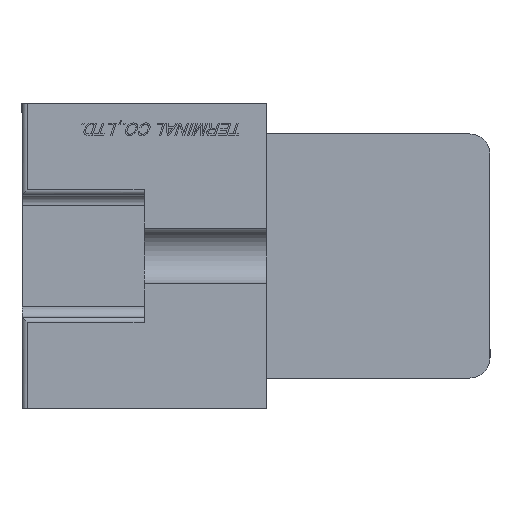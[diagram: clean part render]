
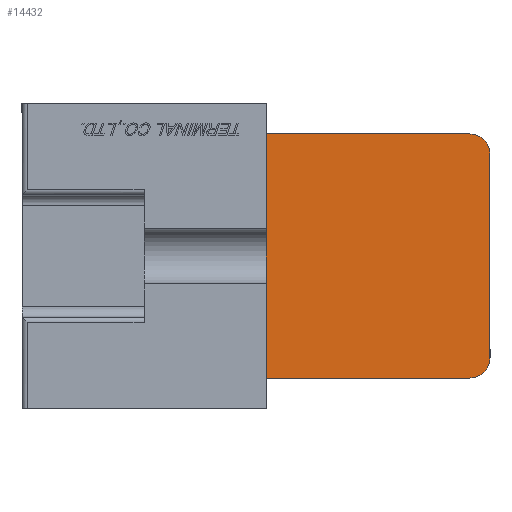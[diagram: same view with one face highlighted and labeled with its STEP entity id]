
A CAD part, left-side view. The second image highlights one B-rep face of the part: STEP entity #14432.
In plain terms, the highlighted planar face has unit normal (-1, 0, 0).
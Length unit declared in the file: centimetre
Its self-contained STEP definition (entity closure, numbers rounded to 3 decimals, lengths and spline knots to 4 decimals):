
#953=PLANE('',#26004);
#1481=CIRCLE('',#25949,0.2);
#1483=CIRCLE('',#25953,0.2);
#2477=VERTEX_POINT('',#22219);
#2478=VERTEX_POINT('',#22221);
#2500=VERTEX_POINT('',#22368);
#2508=VERTEX_POINT('',#22387);
#2963=VERTEX_POINT('',#24369);
#2971=VERTEX_POINT('',#24455);
#3635=VECTOR('',#16812,1.);
#3660=VECTOR('',#16890,1.);
#3669=VECTOR('',#16902,1.);
#4153=VECTOR('',#17765,1.);
#4760=LINE('',#22220,#3635);
#4785=LINE('',#22369,#3660);
#4794=LINE('',#22388,#3669);
#5278=LINE('',#24454,#4153);
#6513=EDGE_CURVE('',#2477,#2478,#4760,.T.);
#6558=EDGE_CURVE('',#2500,#2477,#4785,.T.);
#6569=EDGE_CURVE('',#2500,#2508,#4794,.T.);
#7243=EDGE_CURVE('',#2478,#2963,#1481,.T.);
#7254=EDGE_CURVE('',#2971,#2963,#5278,.T.);
#7256=EDGE_CURVE('',#2971,#2508,#1483,.T.);
#11359=ORIENTED_EDGE('',*,*,#7243,.F.);
#11360=ORIENTED_EDGE('',*,*,#6513,.F.);
#11361=ORIENTED_EDGE('',*,*,#6558,.F.);
#11362=ORIENTED_EDGE('',*,*,#6569,.T.);
#11363=ORIENTED_EDGE('',*,*,#7256,.F.);
#11364=ORIENTED_EDGE('',*,*,#7254,.T.);
#12439=EDGE_LOOP('',(#11359,#11360,#11361,#11362,#11363,#11364));
#13514=FACE_BOUND('',#12439,.T.);
#14432=ADVANCED_FACE('',(#13514),#953,.T.);
#16812=DIRECTION('',(0.,-1.,0.));
#16890=DIRECTION('',(0.,0.,1.));
#16902=DIRECTION('',(0.,-1.,0.));
#17754=DIRECTION('',(1.,0.,0.));
#17755=DIRECTION('',(0.,-0.141,0.141));
#17765=DIRECTION('',(0.,0.,1.));
#17769=DIRECTION('',(1.,0.,0.));
#17770=DIRECTION('',(0.,-0.141,-0.141));
#17877=DIRECTION('',(-1.,0.,0.));
#22219=CARTESIAN_POINT('',(-4.15,1.1,1.2));
#22220=CARTESIAN_POINT('',(-4.15,1.1,1.2));
#22221=CARTESIAN_POINT('',(-4.15,-0.9,1.2));
#22368=CARTESIAN_POINT('',(-4.15,1.1,-1.2));
#22369=CARTESIAN_POINT('',(-4.15,1.1,0.));
#22387=CARTESIAN_POINT('',(-4.15,-0.9,-1.2));
#22388=CARTESIAN_POINT('',(-4.15,1.1,-1.2));
#24368=CARTESIAN_POINT('',(-4.15,-0.9,1.));
#24369=CARTESIAN_POINT('',(-4.15,-1.1,1.));
#24454=CARTESIAN_POINT('',(-4.15,-1.1,-1.2));
#24455=CARTESIAN_POINT('',(-4.15,-1.1,-1.));
#24458=CARTESIAN_POINT('',(-4.15,-0.9,-1.));
#24551=CARTESIAN_POINT('',(-4.15,1.1,0.));
#25949=AXIS2_PLACEMENT_3D('',#24368,#17754,#17755);
#25953=AXIS2_PLACEMENT_3D('',#24458,#17769,#17770);
#26004=AXIS2_PLACEMENT_3D('',#24551,#17877,$);
